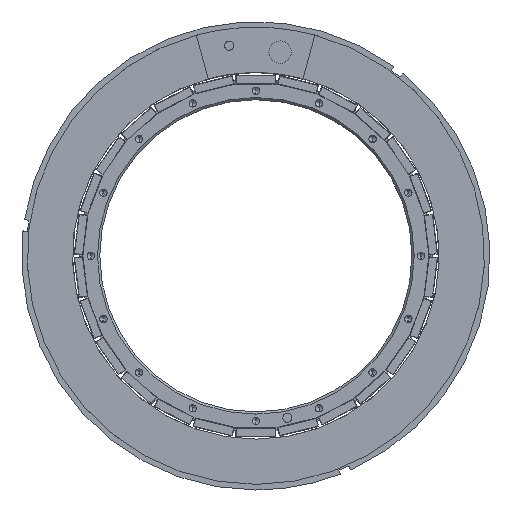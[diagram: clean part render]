
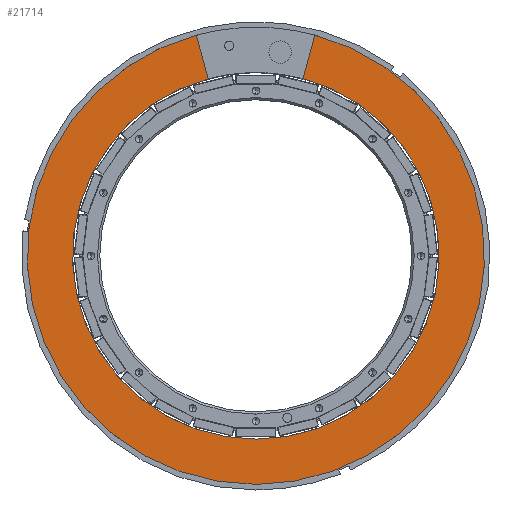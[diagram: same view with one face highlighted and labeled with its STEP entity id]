
A CAD part, front view. The second image highlights one B-rep face of the part: STEP entity #21714.
In plain terms, the highlighted planar face has unit normal (0, -1, 0).
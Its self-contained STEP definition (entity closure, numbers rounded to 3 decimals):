
#185 = AXIS2_PLACEMENT_3D ( 'NONE', #8363, #23004, #4928 ) ;
#309 = ORIENTED_EDGE ( 'NONE', *, *, #15481, .T. ) ;
#479 = DIRECTION ( 'NONE',  ( 0., 1., 0. ) ) ;
#485 = VECTOR ( 'NONE', #10545, 1000. ) ;
#617 = EDGE_CURVE ( 'NONE', #12344, #5358, #23467, .T. ) ;
#909 = LINE ( 'NONE', #20562, #485 ) ;
#973 = AXIS2_PLACEMENT_3D ( 'NONE', #17968, #13872, #7554 ) ;
#1019 = ORIENTED_EDGE ( 'NONE', *, *, #1248, .T. ) ;
#1148 = DIRECTION ( 'NONE',  ( 0., 1., 0. ) ) ;
#1248 = EDGE_CURVE ( 'NONE', #20920, #9892, #14367, .T. ) ;
#1613 = CARTESIAN_POINT ( 'NONE',  ( 90.889, 204.492, 442.238 ) ) ;
#1701 = PLANE ( 'NONE',  #2331 ) ;
#1964 = ORIENTED_EDGE ( 'NONE', *, *, #19696, .T. ) ;
#2331 = AXIS2_PLACEMENT_3D ( 'NONE', #3801, #19383, #10016 ) ;
#2457 = CARTESIAN_POINT ( 'NONE',  ( 117.054, 204.492, 343.133 ) ) ;
#3188 = CARTESIAN_POINT ( 'NONE',  ( 142.849, 204.492, 441.818 ) ) ;
#3213 = DIRECTION ( 'NONE',  ( 0.258, 0., 0.966 ) ) ;
#3304 = AXIS2_PLACEMENT_3D ( 'NONE', #2457, #479, #8541 ) ;
#3630 = VERTEX_POINT ( 'NONE', #7948 ) ;
#3801 = CARTESIAN_POINT ( 'NONE',  ( 117.054, 204.492, 343.133 ) ) ;
#3808 = AXIS2_PLACEMENT_3D ( 'NONE', #11177, #1148, #17388 ) ;
#4433 = CARTESIAN_POINT ( 'NONE',  ( 91.016, 204.492, 441.754 ) ) ;
#4677 = ORIENTED_EDGE ( 'NONE', *, *, #25427, .F. ) ;
#4928 = DIRECTION ( 'NONE',  ( 0.001, 0., -1. ) ) ;
#5295 = CARTESIAN_POINT ( 'NONE',  ( 138.359, 204.492, 423.04 ) ) ;
#5315 = EDGE_CURVE ( 'NONE', #20920, #5358, #909, .T. ) ;
#5358 = VERTEX_POINT ( 'NONE', #7636 ) ;
#6956 = VERTEX_POINT ( 'NONE', #5295 ) ;
#7554 = DIRECTION ( 'NONE',  ( 0.001, 0., -1. ) ) ;
#7636 = CARTESIAN_POINT ( 'NONE',  ( 95.552, 204.492, 422.988 ) ) ;
#7948 = CARTESIAN_POINT ( 'NONE',  ( 143.332, 204.492, 441.689 ) ) ;
#8062 = VECTOR ( 'NONE', #3213, 1000. ) ;
#8192 = EDGE_CURVE ( 'NONE', #6956, #3630, #9158, .T. ) ;
#8363 = CARTESIAN_POINT ( 'NONE',  ( 117.054, 204.492, 343.133 ) ) ;
#8500 = CIRCLE ( 'NONE', #12717, 0.5 ) ;
#8541 = DIRECTION ( 'NONE',  ( 0.001, 0., -1. ) ) ;
#8735 = AXIS2_PLACEMENT_3D ( 'NONE', #19042, #22998, #13238 ) ;
#9158 = LINE ( 'NONE', #21291, #8062 ) ;
#9581 = ORIENTED_EDGE ( 'NONE', *, *, #16388, .T. ) ;
#9892 = VERTEX_POINT ( 'NONE', #1613 ) ;
#10016 = DIRECTION ( 'NONE',  ( 0.001, 0., -1. ) ) ;
#10467 = CIRCLE ( 'NONE', #3304, 102.5 ) ;
#10545 = DIRECTION ( 'NONE',  ( 0.26, 0., -0.966 ) ) ;
#10676 = CARTESIAN_POINT ( 'NONE',  ( 117.154, 204.492, 260.933 ) ) ;
#10694 = CARTESIAN_POINT ( 'NONE',  ( 96.162, 204.492, 422.634 ) ) ;
#10962 = CIRCLE ( 'NONE', #3808, 82.2 ) ;
#11010 = EDGE_CURVE ( 'NONE', #17833, #25707, #13628, .T. ) ;
#11104 = DIRECTION ( 'NONE',  ( 0.001, 0., -1. ) ) ;
#11177 = CARTESIAN_POINT ( 'NONE',  ( 117.054, 204.492, 343.133 ) ) ;
#11313 = CARTESIAN_POINT ( 'NONE',  ( 142.975, 204.492, 442.301 ) ) ;
#11832 = ORIENTED_EDGE ( 'NONE', *, *, #11010, .F. ) ;
#11903 = DIRECTION ( 'NONE',  ( 0.001, 0., -1. ) ) ;
#11992 = EDGE_LOOP ( 'NONE', ( #23405, #1019, #4677, #11832, #19117, #14980, #9581, #309, #1964, #19367 ) ) ;
#12344 = VERTEX_POINT ( 'NONE', #10694 ) ;
#12717 = AXIS2_PLACEMENT_3D ( 'NONE', #14013, #22060, #11903 ) ;
#12997 = DIRECTION ( 'NONE',  ( 0.001, 0., -1. ) ) ;
#13238 = DIRECTION ( 'NONE',  ( 0.001, 0., -1. ) ) ;
#13551 = AXIS2_PLACEMENT_3D ( 'NONE', #4433, #24733, #12997 ) ;
#13628 = CIRCLE ( 'NONE', #973, 102.5 ) ;
#13872 = DIRECTION ( 'NONE',  ( 0., 1., 0. ) ) ;
#14013 = CARTESIAN_POINT ( 'NONE',  ( 137.876, 204.492, 423.169 ) ) ;
#14367 = CIRCLE ( 'NONE', #13551, 0.5 ) ;
#14980 = ORIENTED_EDGE ( 'NONE', *, *, #8192, .F. ) ;
#15390 = CIRCLE ( 'NONE', #17488, 0.5 ) ;
#15481 = EDGE_CURVE ( 'NONE', #19629, #17735, #10962, .T. ) ;
#16159 = CARTESIAN_POINT ( 'NONE',  ( 137.75, 204.492, 422.685 ) ) ;
#16388 = EDGE_CURVE ( 'NONE', #6956, #19629, #8500, .T. ) ;
#17388 = DIRECTION ( 'NONE',  ( 0.001, 0., -1. ) ) ;
#17488 = AXIS2_PLACEMENT_3D ( 'NONE', #3188, #21131, #11104 ) ;
#17735 = VERTEX_POINT ( 'NONE', #10676 ) ;
#17833 = VERTEX_POINT ( 'NONE', #11313 ) ;
#17968 = CARTESIAN_POINT ( 'NONE',  ( 117.054, 204.492, 343.133 ) ) ;
#19042 = CARTESIAN_POINT ( 'NONE',  ( 96.034, 204.492, 423.118 ) ) ;
#19117 = ORIENTED_EDGE ( 'NONE', *, *, #21196, .T. ) ;
#19367 = ORIENTED_EDGE ( 'NONE', *, *, #617, .T. ) ;
#19383 = DIRECTION ( 'NONE',  ( 0., 1., 0. ) ) ;
#19629 = VERTEX_POINT ( 'NONE', #16159 ) ;
#19696 = EDGE_CURVE ( 'NONE', #17735, #12344, #25460, .T. ) ;
#20562 = CARTESIAN_POINT ( 'NONE',  ( 95.681, 204.492, 422.506 ) ) ;
#20920 = VERTEX_POINT ( 'NONE', #24707 ) ;
#21131 = DIRECTION ( 'NONE',  ( 0., 1., 0. ) ) ;
#21196 = EDGE_CURVE ( 'NONE', #17833, #3630, #15390, .T. ) ;
#21291 = CARTESIAN_POINT ( 'NONE',  ( 138.231, 204.492, 422.558 ) ) ;
#21714 = ADVANCED_FACE ( 'NONE', ( #21753 ), #1701, .F. ) ;
#21753 = FACE_OUTER_BOUND ( 'NONE', #11992, .T. ) ;
#22060 = DIRECTION ( 'NONE',  ( 0., 1., 0. ) ) ;
#22884 = CARTESIAN_POINT ( 'NONE',  ( 117.179, 204.492, 240.633 ) ) ;
#22998 = DIRECTION ( 'NONE',  ( 0., 1., 0. ) ) ;
#23004 = DIRECTION ( 'NONE',  ( 0., 1., 0. ) ) ;
#23405 = ORIENTED_EDGE ( 'NONE', *, *, #5315, .F. ) ;
#23467 = CIRCLE ( 'NONE', #8735, 0.5 ) ;
#24707 = CARTESIAN_POINT ( 'NONE',  ( 90.533, 204.492, 441.624 ) ) ;
#24733 = DIRECTION ( 'NONE',  ( 0., 1., 0. ) ) ;
#25427 = EDGE_CURVE ( 'NONE', #25707, #9892, #10467, .T. ) ;
#25460 = CIRCLE ( 'NONE', #185, 82.2 ) ;
#25707 = VERTEX_POINT ( 'NONE', #22884 ) ;
